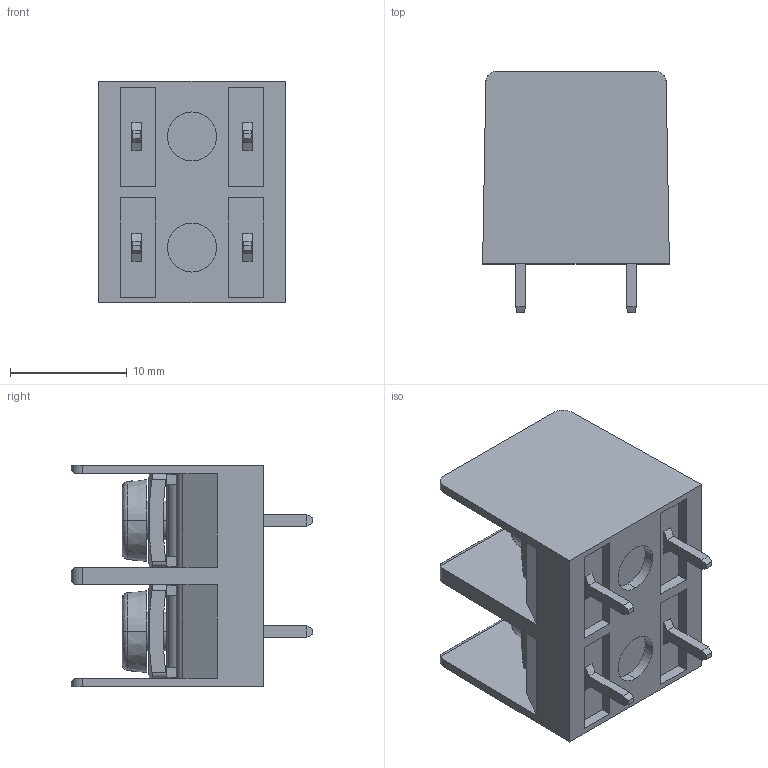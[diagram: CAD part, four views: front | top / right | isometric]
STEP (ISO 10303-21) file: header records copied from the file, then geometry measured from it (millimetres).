
FILE_DESCRIPTION (( 'STEP AP214' ), '1' );
FILE_NAME ('982-D-02.STEP', '2007-12-12T14:28:54', ( 'weco' ), ( 'weco' ), 'SwSTEP 2.0', 'SolidWorks 2007', '' );
FILE_SCHEMA (( 'AUTOMOTIVE_DESIGN' ));
Length unit declared in the file: millimetre
Products named in the file (1): 982-D-02
Bounding box: 16 x 20.7 x 19.02 mm (x, y, z)
Volume: 2890.1 mm3; surface area: 2849.2 mm2
Topology: 3 solids, 3 shells, 242 faces, 640 edges, 416 vertices
Faces by surface type: plane 154, cylinder 54, bspline 22, cone 12
Entity records: 8453 total; most frequent: CARTESIAN_POINT 2595, ORIENTED_EDGE 1280, DIRECTION 1096, EDGE_CURVE 640, VECTOR 418, LINE 418, VERTEX_POINT 416, AXIS2_PLACEMENT_3D 339
